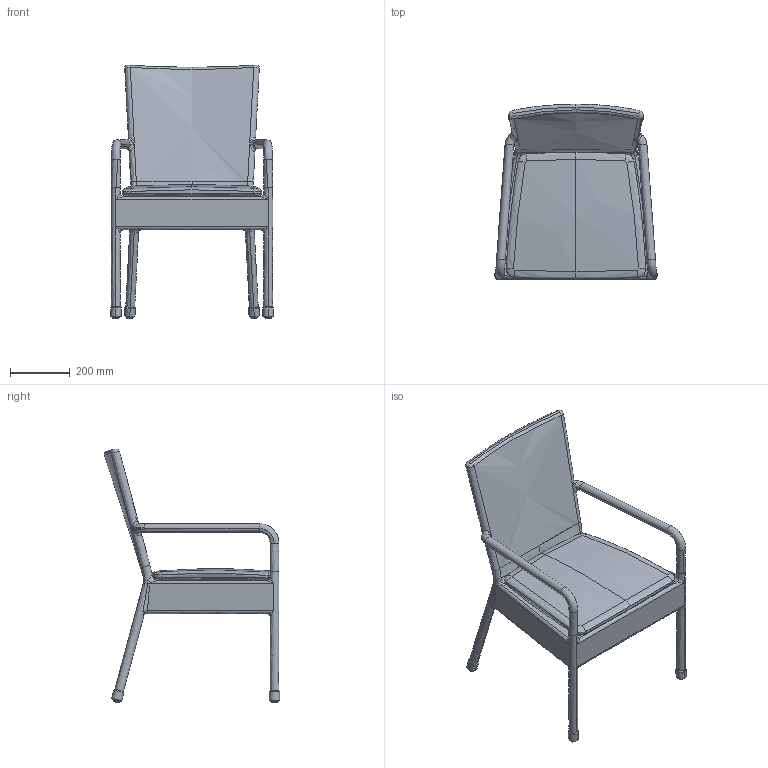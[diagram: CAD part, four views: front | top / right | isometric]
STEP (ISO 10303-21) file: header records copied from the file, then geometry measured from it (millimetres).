
FILE_DESCRIPTION(/* description */ (''),/* implementation_level */ '2;1');
FILE_NAME(/* name */ 'KINOSH~2',/* time_stamp */ '2019-07-19T09:34:59+09:00',/* author */ (''),/* organization */ (''),/* preprocessor_version */ 'ST-DEVELOPER v15',/* originating_system */ '',/* authorisation */ '');
FILE_SCHEMA (('AUTOMOTIVE_DESIGN'));
Length unit declared in the file: millimetre
Products named in the file (2): Document; ﾌﾞﾛｯｸ 08
Assembly tree (1 placements, depth 2):
  Document
    ﾌﾞﾛｯｸ 08
Bounding box: 544.89 x 587.38 x 849.81 mm (x, y, z)
Volume: 139611.6 mm3; surface area: 1657998.9 mm2
Topology: 4 solids, 9 shells, 219 faces, 565 edges, 320 vertices
Faces by surface type: bspline 193, plane 26
Entity records: 24989 total; most frequent: CARTESIAN_POINT 22024, ORIENTED_EDGE 988, EDGE_CURVE 551, VERTEX_POINT 320, B_SPLINE_CURVE_WITH_KNOTS 256, EDGE_LOOP 227, ADVANCED_FACE 219, FACE_OUTER_BOUND 219
